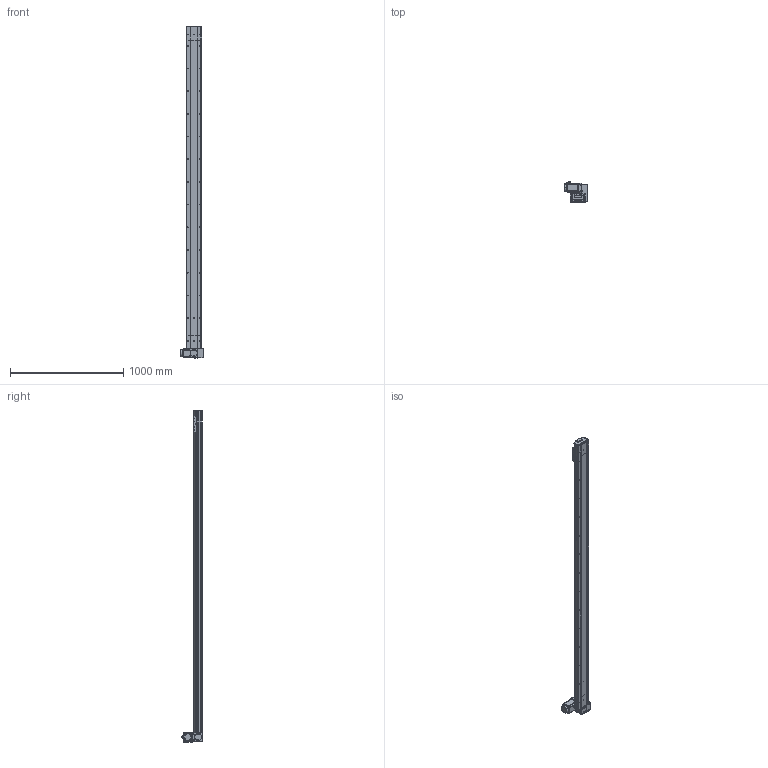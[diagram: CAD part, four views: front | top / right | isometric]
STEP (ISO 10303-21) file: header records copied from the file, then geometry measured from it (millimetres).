
FILE_DESCRIPTION (( 'STEP AP214' ), '1' );
FILE_NAME ('D14 TBH LT S2600.STEP', '2010-06-29T14:35:27', ( 'Conseil Régional Haute-Normandie' ), ( 'Conseil Régional Haute-Normandie' ), 'SwSTEP 2.0', 'SolidWorks 2010', '' );
FILE_SCHEMA (( 'AUTOMOTIVE_DESIGN' ));
Length unit declared in the file: millimetre
Products named in the file (39): Cache_Default; vis M5 L8 90°_Default; D14 TB H LT_Default; poulie head_Default; Plaque racord D14_Default; Arbre+rail head D14; plaque de  bout head D14 LT_Default; corp head D14_Default; couvercle D14 head_Default; couroie 2_Default; avant 90BLDC100A-640; codeur 90BLDC100-640; corps 90BLDC100A-640; Moteur motionking 90BLDC100A-640; poulie tail_Default; Couroie_Default; Conecteur_Default; Conecteur2_Default; Chariot D14; vis M5 L5_Default; chariot D14B_Default; Cvis M5 L70_Default; vis M5 L12_Default; guide D14; renvoi LH_Default; Cache arbre_Default; Vis M5 L16-2_Default; couvercle D14_Default; Arbre+rail tail D14; vis M5 L16_Default; tete d''axe haut D14; plaque de  bout tail D14_Default; corpl tail D14_Default; Tail D14B_Default; couvercle D14 course L2600_Default; Rail + couroie D14 Course 2600 ; corpl 2600_Default; D14 TBH LT S2600; D14 couroie L2600_Default
Assembly tree (68 placements, depth 4):
  D14 TBH LT S2600
    Tail D14B_Default
      vis M5 L12_Default  x4
      vis M5 L16_Default  x2
      tete d''axe haut D14
      plaque de  bout tail D14_Default
      corpl tail D14_Default
      vis M5 L8 90°_Default  x2
      Arbre+rail tail D14
      couvercle D14_Default
      Couroie_Default
      poulie tail_Default
    chariot D14B_Default
      vis M5 L12_Default  x4
      Chariot D14
      guide D14  x2
    D14 TB H LT_Default
      vis M5 L12_Default  x12
      Cvis M5 L70_Default  x4
      vis M5 L5_Default  x2
      Arbre+rail head D14
      Vis M5 L16-2_Default  x4
      couroie 2_Default
      corp head D14_Default
      Plaque racord D14_Default
      Cache arbre_Default
      Cache_Default  x2
      plaque de  bout head D14 LT_Default
      poulie head_Default
      couvercle D14 head_Default
      renvoi LH_Default
      Moteur motionking 90BLDC100A-640
        codeur 90BLDC100-640
        corps 90BLDC100A-640
        avant 90BLDC100A-640
        Conecteur_Default
        Conecteur2_Default
    D14 couroie L2600_Default
      Rail + couroie D14 Course 2600 
      corpl 2600_Default
      couvercle D14 course L2600_Default
Bounding box: 207.2 x 189.1 x 2925.75 mm (x, y, z)
Volume: 10946603.2 mm3; surface area: 3958260.3 mm2
Topology: 92 solids, 92 shells, 2741 faces, 6683 edges, 4314 vertices
Faces by surface type: plane 1617, cylinder 811, bspline 136, torus 89, cone 84, sphere 4
Entity records: 82448 total; most frequent: CARTESIAN_POINT 24077, ORIENTED_EDGE 10226, DIRECTION 10140, EDGE_CURVE 5113, AXIS2_PLACEMENT_3D 3391, VERTEX_POINT 3364, VECTOR 3358, LINE 3358
